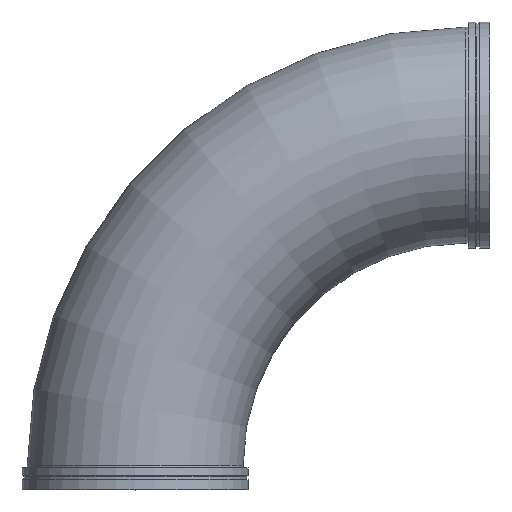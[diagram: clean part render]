
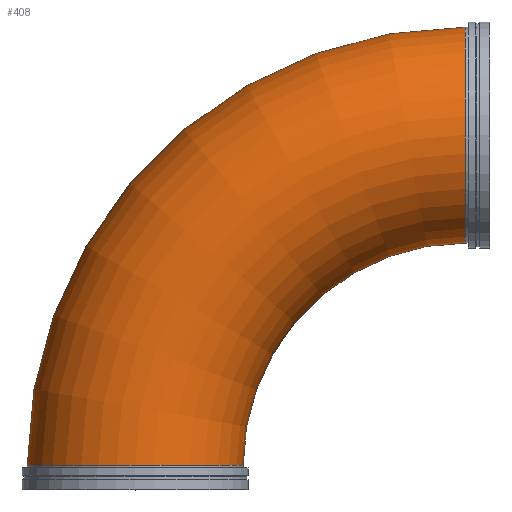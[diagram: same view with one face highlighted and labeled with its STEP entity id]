
A CAD part, top view. The second image highlights one B-rep face of the part: STEP entity #408.
In plain terms, the highlighted toroidal (fillet/blend) face has major radius 1631.95 mm and minor radius 533.4 mm.
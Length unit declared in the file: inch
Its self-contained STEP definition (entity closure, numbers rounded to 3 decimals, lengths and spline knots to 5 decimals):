
#46=TOROIDAL_SURFACE('',#484,64.25,21.);
#105=FACE_OUTER_BOUND('',#129,.T.);
#129=EDGE_LOOP('',(#346,#347,#348,#349,#350,#351));
#169=CIRCLE('',#482,21.);
#170=CIRCLE('',#483,21.);
#171=CIRCLE('',#485,43.25);
#172=CIRCLE('',#486,21.);
#173=CIRCLE('',#487,21.);
#207=VERTEX_POINT('',#756);
#208=VERTEX_POINT('',#758);
#209=VERTEX_POINT('',#762);
#210=VERTEX_POINT('',#764);
#256=EDGE_CURVE('',#207,#208,#169,.T.);
#257=EDGE_CURVE('',#208,#207,#170,.T.);
#258=EDGE_CURVE('',#208,#209,#171,.T.);
#259=EDGE_CURVE('',#209,#210,#172,.T.);
#260=EDGE_CURVE('',#210,#209,#173,.T.);
#346=ORIENTED_EDGE('',*,*,#256,.F.);
#347=ORIENTED_EDGE('',*,*,#257,.F.);
#348=ORIENTED_EDGE('',*,*,#258,.T.);
#349=ORIENTED_EDGE('',*,*,#259,.T.);
#350=ORIENTED_EDGE('',*,*,#260,.T.);
#351=ORIENTED_EDGE('',*,*,#258,.F.);
#408=ADVANCED_FACE('',(#105),#46,.T.);
#482=AXIS2_PLACEMENT_3D('',#759,#617,#618);
#483=AXIS2_PLACEMENT_3D('',#760,#619,#620);
#484=AXIS2_PLACEMENT_3D('',#761,#621,#622);
#485=AXIS2_PLACEMENT_3D('',#763,#623,#624);
#486=AXIS2_PLACEMENT_3D('',#765,#625,#626);
#487=AXIS2_PLACEMENT_3D('',#766,#627,#628);
#617=DIRECTION('center_axis',(1.,0.,0.));
#618=DIRECTION('ref_axis',(0.,-1.,0.));
#619=DIRECTION('center_axis',(1.,0.,0.));
#620=DIRECTION('ref_axis',(0.,-1.,0.));
#621=DIRECTION('center_axis',(0.,0.,-1.));
#622=DIRECTION('ref_axis',(-1.,0.,0.));
#623=DIRECTION('center_axis',(0.,0.,1.));
#624=DIRECTION('ref_axis',(-1.,0.,0.));
#625=DIRECTION('center_axis',(0.,1.,0.));
#626=DIRECTION('ref_axis',(1.,0.,0.));
#627=DIRECTION('center_axis',(0.,1.,0.));
#628=DIRECTION('ref_axis',(1.,0.,0.));
#756=CARTESIAN_POINT('',(64.25,90.,0.));
#758=CARTESIAN_POINT('',(64.25,48.,0.));
#759=CARTESIAN_POINT('Origin',(64.25,69.,0.));
#760=CARTESIAN_POINT('Origin',(64.25,69.,0.));
#761=CARTESIAN_POINT('Origin',(64.25,4.75,0.));
#762=CARTESIAN_POINT('',(21.,4.75,0.));
#763=CARTESIAN_POINT('Origin',(64.25,4.75,0.));
#764=CARTESIAN_POINT('',(-21.,4.75,0.));
#765=CARTESIAN_POINT('Origin',(0.,4.75,0.));
#766=CARTESIAN_POINT('Origin',(0.,4.75,0.));
